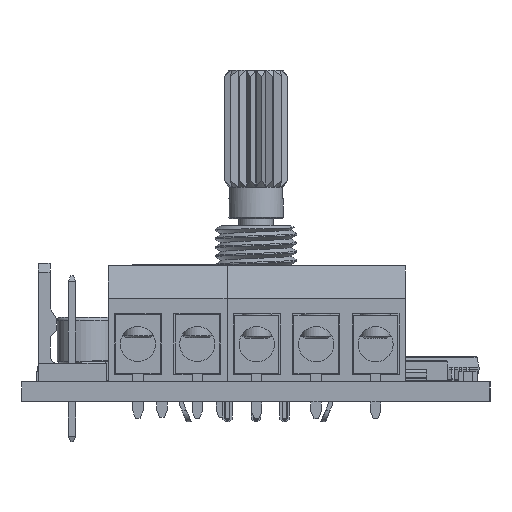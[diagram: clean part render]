
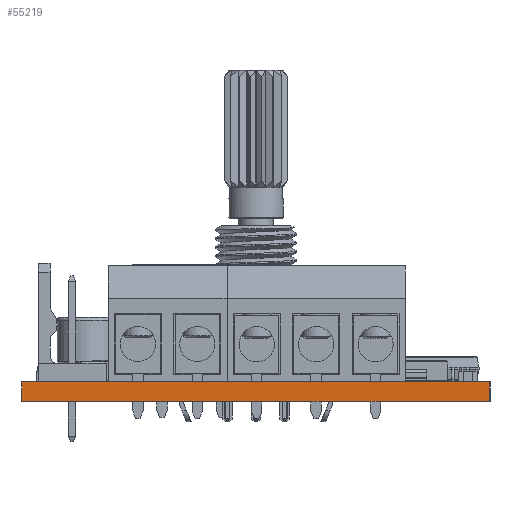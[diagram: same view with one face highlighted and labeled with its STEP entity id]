
A CAD part, left-side view. The second image highlights one B-rep face of the part: STEP entity #55219.
In plain terms, the highlighted planar face has unit normal (-1, 0, 0).
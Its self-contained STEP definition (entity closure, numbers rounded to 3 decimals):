
#3438=PLANE('',#59055);
#5610=FACE_OUTER_BOUND('',#8565,.T.);
#8565=EDGE_LOOP('',(#39726,#39727,#39728,#39729));
#12398=LINE('',#80990,#18212);
#12406=LINE('',#81005,#18220);
#12407=LINE('',#81007,#18221);
#12408=LINE('',#81008,#18222);
#18212=VECTOR('',#65469,10.);
#18220=VECTOR('',#65481,10.);
#18221=VECTOR('',#65484,10.);
#18222=VECTOR('',#65485,10.);
#25932=VERTEX_POINT('',#80987);
#25933=VERTEX_POINT('',#80989);
#25937=VERTEX_POINT('',#81001);
#25938=VERTEX_POINT('',#81003);
#31409=EDGE_CURVE('',#25932,#25933,#12398,.T.);
#31417=EDGE_CURVE('',#25937,#25938,#12406,.T.);
#31418=EDGE_CURVE('',#25932,#25937,#12407,.T.);
#31419=EDGE_CURVE('',#25933,#25938,#12408,.T.);
#39726=ORIENTED_EDGE('',*,*,#31418,.T.);
#39727=ORIENTED_EDGE('',*,*,#31417,.T.);
#39728=ORIENTED_EDGE('',*,*,#31419,.F.);
#39729=ORIENTED_EDGE('',*,*,#31409,.F.);
#55219=ADVANCED_FACE('',(#5610),#3438,.T.);
#59055=AXIS2_PLACEMENT_3D('',#81006,#65482,#65483);
#65469=DIRECTION('',(0.,0.,1.));
#65481=DIRECTION('',(0.,0.,1.));
#65482=DIRECTION('center_axis',(-1.,0.,0.));
#65483=DIRECTION('ref_axis',(0.,-1.,0.));
#65484=DIRECTION('',(0.,-1.,0.));
#65485=DIRECTION('',(0.,-1.,0.));
#80987=CARTESIAN_POINT('',(0.,40.,0.));
#80989=CARTESIAN_POINT('',(0.,40.,1.67));
#80990=CARTESIAN_POINT('',(0.,40.,0.));
#81001=CARTESIAN_POINT('',(0.,0.,0.));
#81003=CARTESIAN_POINT('',(0.,0.,1.67));
#81005=CARTESIAN_POINT('',(0.,0.,0.));
#81006=CARTESIAN_POINT('Origin',(0.,40.,0.));
#81007=CARTESIAN_POINT('',(0.,40.,0.));
#81008=CARTESIAN_POINT('',(0.,40.,1.67));
